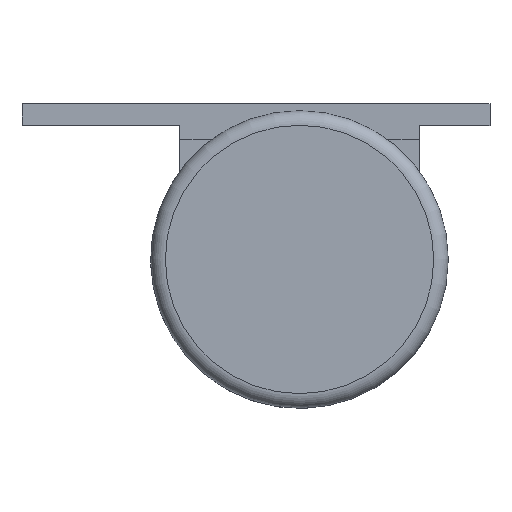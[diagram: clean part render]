
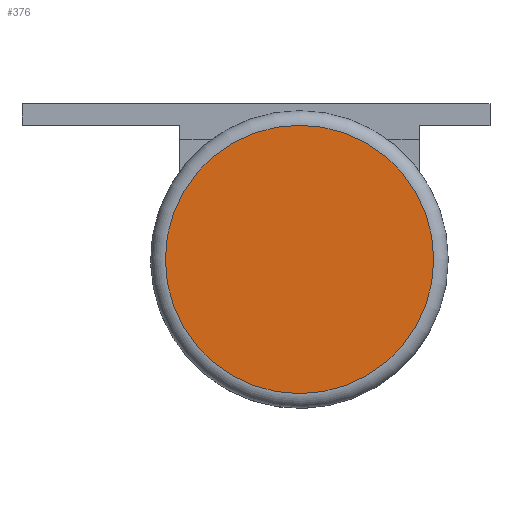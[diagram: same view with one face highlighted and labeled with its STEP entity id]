
A CAD part, top view. The second image highlights one B-rep face of the part: STEP entity #376.
In plain terms, the highlighted planar face has unit normal (0, 0, 1).
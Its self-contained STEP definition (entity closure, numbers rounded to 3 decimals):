
#66 = TOROIDAL_SURFACE('',#67,18.5,2.);
#67 = AXIS2_PLACEMENT_3D('',#68,#69,#70);
#68 = CARTESIAN_POINT('',(26.,40.,27.));
#69 = DIRECTION('',(0.,0.,1.));
#70 = DIRECTION('',(1.,0.,-0.));
#327 = VERTEX_POINT('',#328);
#328 = CARTESIAN_POINT('',(44.5,40.,29.));
#350 = EDGE_CURVE('',#327,#327,#351,.T.);
#351 = SURFACE_CURVE('',#352,(#357,#364),.PCURVE_S1.);
#352 = CIRCLE('',#353,18.5);
#353 = AXIS2_PLACEMENT_3D('',#354,#355,#356);
#354 = CARTESIAN_POINT('',(26.,40.,29.));
#355 = DIRECTION('',(0.,0.,1.));
#356 = DIRECTION('',(1.,0.,-0.));
#357 = PCURVE('',#66,#358);
#358 = DEFINITIONAL_REPRESENTATION('',(#359),#363);
#359 = LINE('',#360,#361);
#360 = CARTESIAN_POINT('',(0.,1.571));
#361 = VECTOR('',#362,1.);
#362 = DIRECTION('',(1.,0.));
#363 = ( GEOMETRIC_REPRESENTATION_CONTEXT(2) 
PARAMETRIC_REPRESENTATION_CONTEXT() REPRESENTATION_CONTEXT('2D SPACE',''
  ) );
#364 = PCURVE('',#365,#370);
#365 = PLANE('',#366);
#366 = AXIS2_PLACEMENT_3D('',#367,#368,#369);
#367 = CARTESIAN_POINT('',(26.,40.,29.));
#368 = DIRECTION('',(0.,0.,1.));
#369 = DIRECTION('',(1.,0.,-0.));
#370 = DEFINITIONAL_REPRESENTATION('',(#371),#375);
#371 = CIRCLE('',#372,18.5);
#372 = AXIS2_PLACEMENT_2D('',#373,#374);
#373 = CARTESIAN_POINT('',(0.,0.));
#374 = DIRECTION('',(1.,0.));
#375 = ( GEOMETRIC_REPRESENTATION_CONTEXT(2) 
PARAMETRIC_REPRESENTATION_CONTEXT() REPRESENTATION_CONTEXT('2D SPACE',''
  ) );
#376 = ADVANCED_FACE('',(#377),#365,.T.);
#377 = FACE_BOUND('',#378,.T.);
#378 = EDGE_LOOP('',(#379));
#379 = ORIENTED_EDGE('',*,*,#350,.T.);
